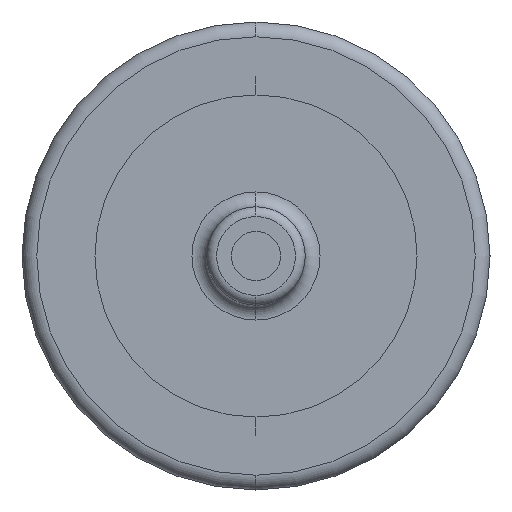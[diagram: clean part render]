
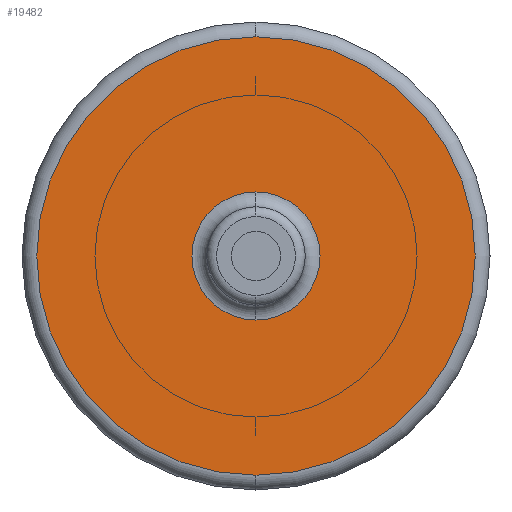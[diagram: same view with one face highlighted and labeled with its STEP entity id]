
A CAD part, left-side view. The second image highlights one B-rep face of the part: STEP entity #19482.
In plain terms, the highlighted planar face has unit normal (-1, 0, 0).
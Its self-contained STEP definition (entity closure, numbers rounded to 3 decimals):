
#1062 = VERTEX_POINT ( 'NONE', #18759 ) ;
#1080 = CIRCLE ( 'NONE', #3980, 1.3 ) ;
#3091 = ORIENTED_EDGE ( 'NONE', *, *, #14982, .T. ) ;
#3236 = DIRECTION ( 'NONE',  ( 0., 0., -1. ) ) ;
#3626 = EDGE_LOOP ( 'NONE', ( #9143, #17515 ) ) ;
#3795 = DIRECTION ( 'NONE',  ( 0., 0., -1. ) ) ;
#3905 = FACE_BOUND ( 'NONE', #3626, .T. ) ;
#3980 = AXIS2_PLACEMENT_3D ( 'NONE', #19698, #11024, #12949 ) ;
#3993 = EDGE_CURVE ( 'NONE', #4236, #1062, #13610, .T. ) ;
#4236 = VERTEX_POINT ( 'NONE', #10874 ) ;
#6943 = AXIS2_PLACEMENT_3D ( 'NONE', #7002, #19423, #3795 ) ;
#7002 = CARTESIAN_POINT ( 'NONE',  ( -12., 4.75, 0. ) ) ;
#7707 = CARTESIAN_POINT ( 'NONE',  ( -12., 0., 0. ) ) ;
#8225 = CARTESIAN_POINT ( 'NONE',  ( -12., 0., 0. ) ) ;
#8933 = FACE_OUTER_BOUND ( 'NONE', #17409, .T. ) ;
#9143 = ORIENTED_EDGE ( 'NONE', *, *, #3993, .T. ) ;
#9164 = AXIS2_PLACEMENT_3D ( 'NONE', #8225, #13772, #14447 ) ;
#9763 = EDGE_CURVE ( 'NONE', #15480, #17375, #14428, .T. ) ;
#10874 = CARTESIAN_POINT ( 'NONE',  ( -12., 0., -1.3 ) ) ;
#11024 = DIRECTION ( 'NONE',  ( 1., 0., 0. ) ) ;
#11119 = DIRECTION ( 'NONE',  ( 1., 0., 0. ) ) ;
#12949 = DIRECTION ( 'NONE',  ( 0., 0., -1. ) ) ;
#13610 = CIRCLE ( 'NONE', #17270, 1.3 ) ;
#13772 = DIRECTION ( 'NONE',  ( -1., 0., 0. ) ) ;
#14428 = CIRCLE ( 'NONE', #18442, 4.45 ) ;
#14447 = DIRECTION ( 'NONE',  ( 0., 0., -1. ) ) ;
#14653 = DIRECTION ( 'NONE',  ( 0., 0., -1. ) ) ;
#14982 = EDGE_CURVE ( 'NONE', #17375, #15480, #15393, .T. ) ;
#15199 = CARTESIAN_POINT ( 'NONE',  ( -12., 0., 0. ) ) ;
#15393 = CIRCLE ( 'NONE', #9164, 4.45 ) ;
#15480 = VERTEX_POINT ( 'NONE', #21710 ) ;
#15661 = PLANE ( 'NONE',  #6943 ) ;
#17025 = DIRECTION ( 'NONE',  ( -1., 0., 0. ) ) ;
#17270 = AXIS2_PLACEMENT_3D ( 'NONE', #7707, #11119, #14653 ) ;
#17375 = VERTEX_POINT ( 'NONE', #17976 ) ;
#17409 = EDGE_LOOP ( 'NONE', ( #3091, #20056 ) ) ;
#17485 = EDGE_CURVE ( 'NONE', #1062, #4236, #1080, .T. ) ;
#17515 = ORIENTED_EDGE ( 'NONE', *, *, #17485, .T. ) ;
#17976 = CARTESIAN_POINT ( 'NONE',  ( -12., 0., -4.45 ) ) ;
#18442 = AXIS2_PLACEMENT_3D ( 'NONE', #15199, #17025, #3236 ) ;
#18759 = CARTESIAN_POINT ( 'NONE',  ( -12., 0., 1.3 ) ) ;
#19423 = DIRECTION ( 'NONE',  ( 1., 0., 0. ) ) ;
#19482 = ADVANCED_FACE ( 'NONE', ( #3905, #8933 ), #15661, .F. ) ;
#19698 = CARTESIAN_POINT ( 'NONE',  ( -12., 0., 0. ) ) ;
#20056 = ORIENTED_EDGE ( 'NONE', *, *, #9763, .T. ) ;
#21710 = CARTESIAN_POINT ( 'NONE',  ( -12., 0., 4.45 ) ) ;
